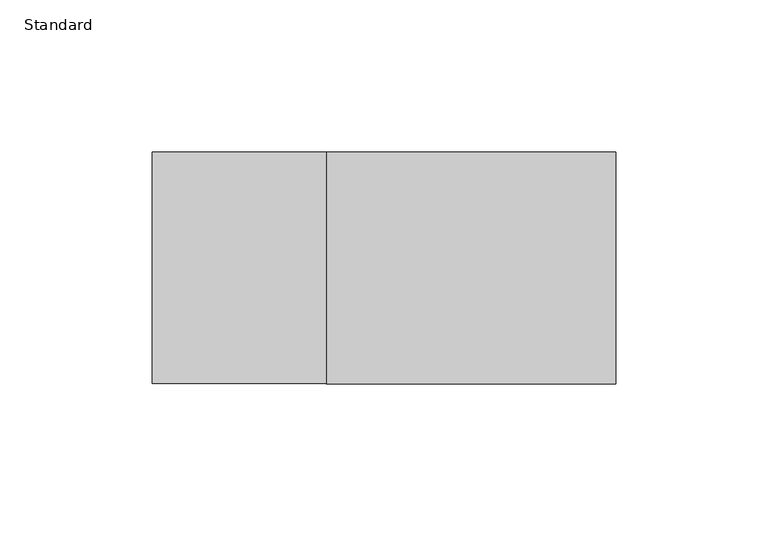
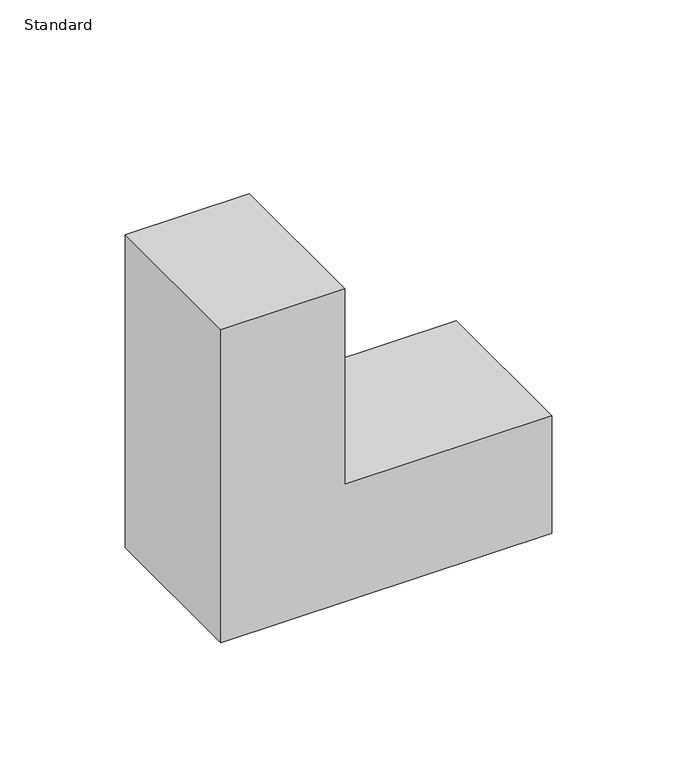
"""IFC4 building model written with IfcOpenShell, lengths in millimetres: proxy geometry, Elbow-ALA3800_Series-Wiremold-Horizontal-Internal : Standard."""

from ifc_helpers import new_model, si_unit, frame, origin, place, context, project, spatial, polyline, outline, extrude, source, transform, mapped, element, save


def standard_987b61e0(model_context):
    return source(origin(), model_context, "Body", "SweptSolid", [
        extrude(outline(polyline([(152.4, -47.625), (152.4, -104.775), (0.0, -104.775), (0.0, 47.625), (57.15, 47.625), (57.15, -47.625), (152.4, -47.625)])), frame((0.0, -38.1, 0.0), z_axis=(0.0, 1.0, 0.0), x_axis=(0.0, 0.0, 1.0)), (0.0, 0.0, 1.0), 76.2),
    ])


if __name__ == "__main__":
    model = new_model("IFC4")
    model_context = context("Model", 3, world=origin())
    ifc_project = project(units=[si_unit("LENGTHUNIT", "METRE", prefix="MILLI")], contexts=[model_context])
    site = spatial("IfcSite", under=ifc_project)
    building = spatial("IfcBuilding", under=site)
    placement = place(None, origin())
    standard_shape = standard_987b61e0(model_context)
    element("IfcBuildingElementProxy", 1, Name="Elbow-ALA3800_Series-Wiremold-Horizontal-Internal : Standard", ObjectType="Elbow-ALA3800_Series-Wiremold-Horizontal-Internal : Standard", at=placement, inside=building, context=model_context, shape_type="MappedRepresentation", body=[
        mapped(standard_shape, transform((0.0, 0.0, 0.0), x_axis=(1.0, 0.0, 0.0), y_axis=(0.0, 1.0, 0.0), z_axis=(0.0, 0.0, 1.0))),
    ])
    save(model, "model.ifc")
